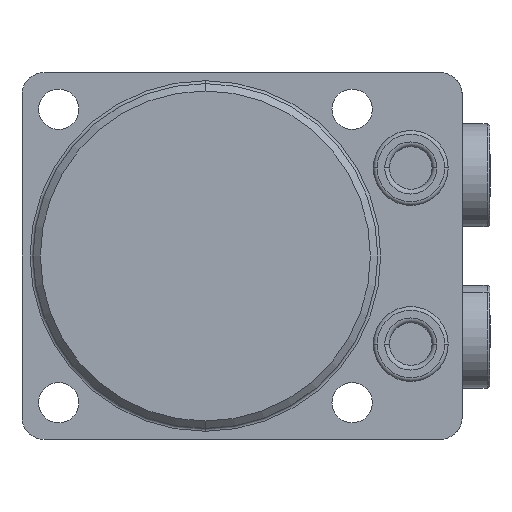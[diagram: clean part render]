
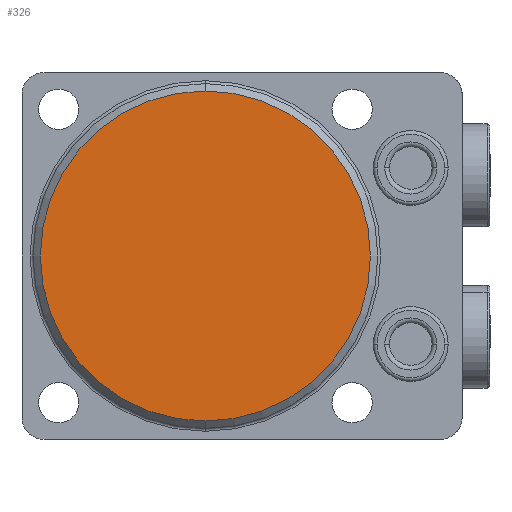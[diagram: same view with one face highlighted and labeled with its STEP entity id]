
A CAD part, front view. The second image highlights one B-rep face of the part: STEP entity #326.
In plain terms, the highlighted planar face has unit normal (0, -1, 0) as drawn and (0, 1, 0) by its records, which use the part's own axes.
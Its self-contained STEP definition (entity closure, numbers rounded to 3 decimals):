
#173=PLANE('',#2676);
#326=ADVANCED_FACE('',(#532),#173,.T.);
#532=FACE_OUTER_BOUND('',#677,.F.);
#677=EDGE_LOOP('',(#1223,#1224));
#875=CIRCLE('',#2640,22.5);
#897=CIRCLE('',#2675,22.5);
#1223=ORIENTED_EDGE('',*,*,#2083,.T.);
#1224=ORIENTED_EDGE('',*,*,#2022,.T.);
#1773=VERTEX_POINT('',#3956);
#1774=VERTEX_POINT('',#3957);
#2022=EDGE_CURVE('',#1773,#1774,#875,.T.);
#2083=EDGE_CURVE('',#1774,#1773,#897,.T.);
#2640=AXIS2_PLACEMENT_3D('',#3955,#3127,#3128);
#2675=AXIS2_PLACEMENT_3D('',#4085,#3231,#3232);
#2676=AXIS2_PLACEMENT_3D('',#4086,#3233,#3234);
#3127=DIRECTION('',(0.,-1.,0.));
#3128=DIRECTION('',(0.,0.,1.));
#3231=DIRECTION('',(0.,-1.,0.));
#3232=DIRECTION('',(0.,0.,1.));
#3233=DIRECTION('',(0.,1.,0.));
#3234=DIRECTION('',(0.,0.,1.));
#3955=CARTESIAN_POINT('',(0.,0.,0.));
#3956=CARTESIAN_POINT('',(0.,0.,-22.5));
#3957=CARTESIAN_POINT('',(0.,0.,22.5));
#4085=CARTESIAN_POINT('',(0.,0.,0.));
#4086=CARTESIAN_POINT('',(-25.,0.,25.));
